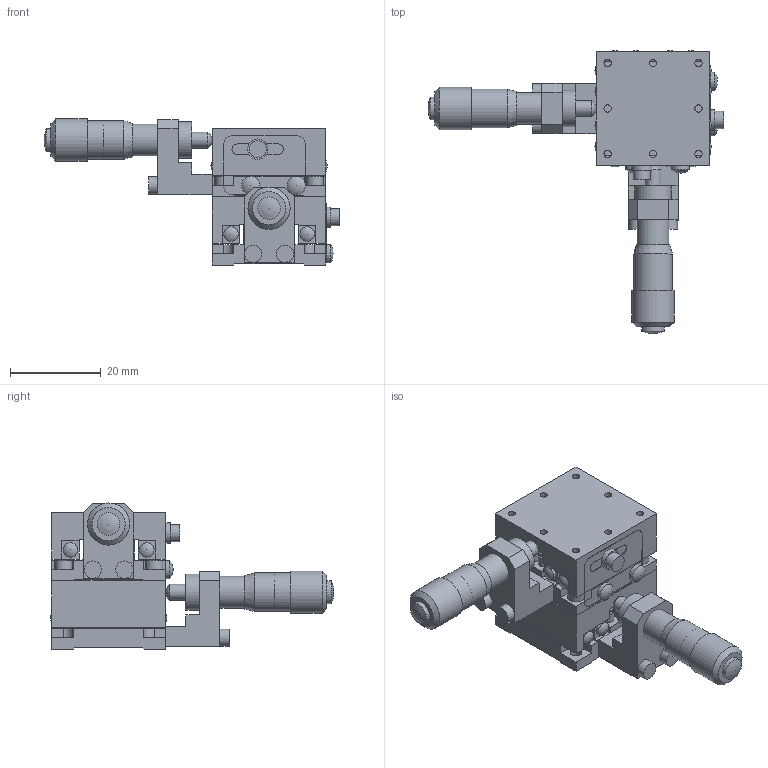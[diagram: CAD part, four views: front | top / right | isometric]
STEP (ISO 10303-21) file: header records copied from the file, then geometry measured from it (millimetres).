
FILE_DESCRIPTION( ( 'STEP AP203' ), '1' );
FILE_NAME( 'C:/3D-Trans/3D_B21-25AN+090213.step', '2009-02-13T06:45:55', ( ' ' ), ( ' ' ), 'XStep 1.0', ' ', ' ' );
FILE_SCHEMA( ( 'CONFIG_CONTROL_DESIGN' ) );
Length unit declared in the file: millimetre
Products named in the file (6): 1; 2; 3; 4; 5; 6
Bounding box: 65.1 x 62.3 x 32.15 mm (x, y, z)
Volume: 21472.3 mm3; surface area: 15354.6 mm2
Topology: 6 solids, 6 shells, 422 faces, 1097 edges, 725 vertices
Faces by surface type: plane 254, cylinder 114, cone 30, sphere 24
Full cylindrical faces by diameter (mm): 1.6 x28, 2 x2, 2.5 x12, 3.2 x16, 3.5 x4, 3.8 x10, 4 x4, 4.5 x4, 5 x2, 5.5 x2, 7 x2, 8 x2, 8.1 x2, 8.5 x2, 9.3 x2
Entity records: 11626 total; most frequent: CARTESIAN_POINT 2032, DIRECTION 1938, ORIENTED_EDGE 1704, EDGE_CURVE 852, AXIS2_PLACEMENT_3D 670, EDGE_LOOP 620, VERTEX_POINT 620, LINE 598
